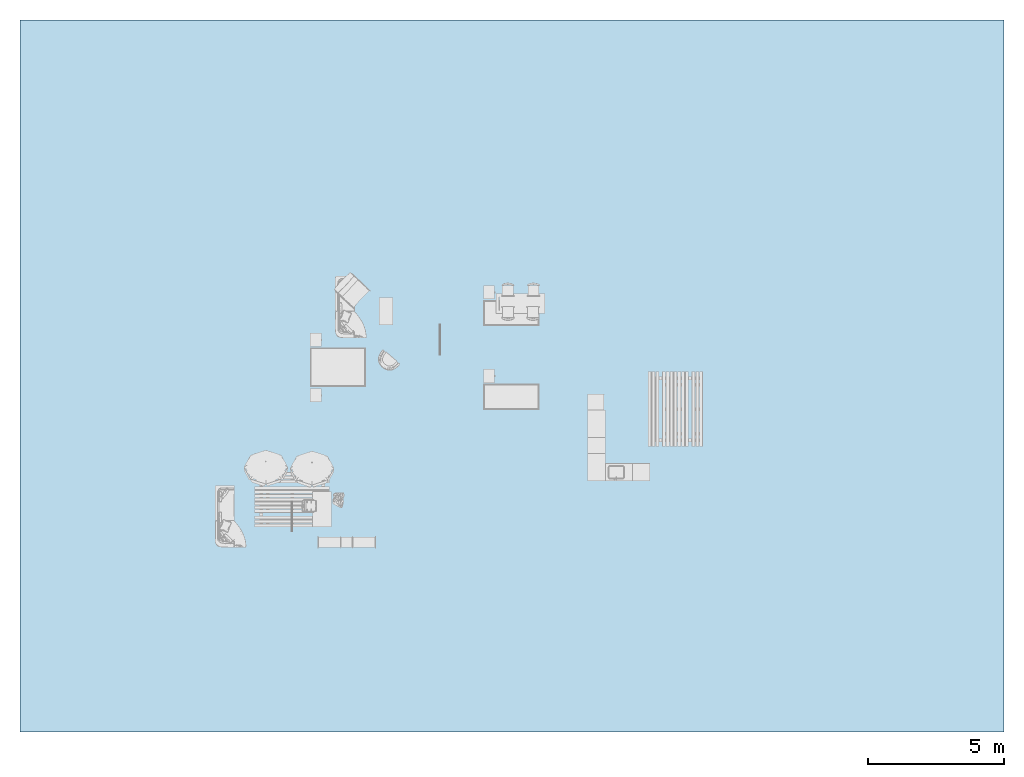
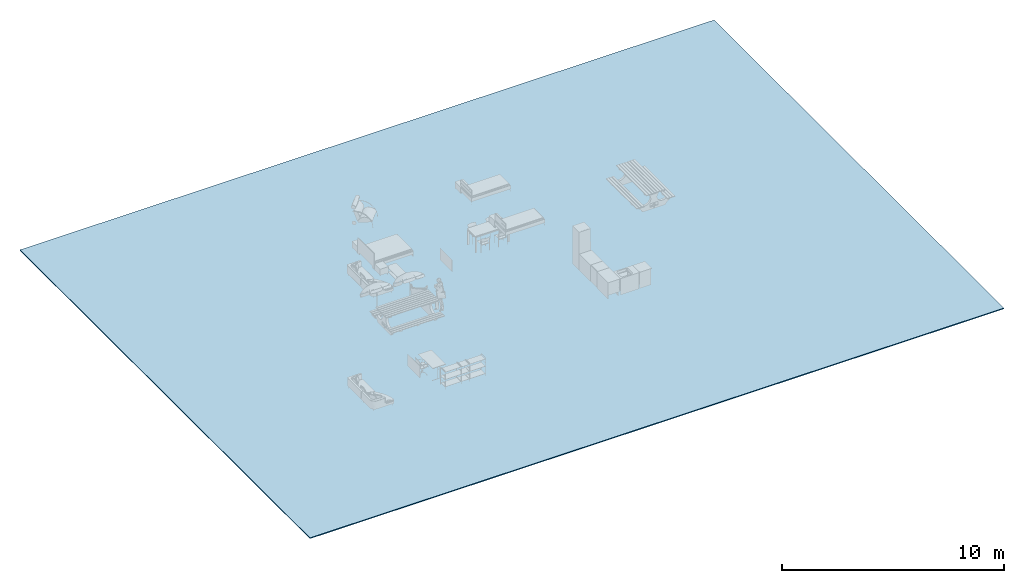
# One storey, part 1 of 4: 1 slab.
"""IFC4 building model written with IfcOpenShell, lengths in metres."""

import ifcopenshell
import ifcopenshell.guid

model = None  # the IFC model being written
_history = None  # IfcOwnerHistory: only IFC2X3 demands one
_inside = {}  # id of a spatial element -> (the spatial element, [elements in it])
_under = {}  # id of a project, library or spatial element -> (it, [spatial elements below it])
_declared = {}  # id of a project -> (the project, [libraries it declares])
_typed = {}  # id of a type object -> (the type object, [elements of that type])
_made_of = {}  # id of a material, layer set ... -> (it, [elements and type objects made of it])


def new_model(schema):
    """Start an empty IFC model of exactly this schema.

    Asked for "IFC4X3", IfcOpenShell would pick the latest addendum, in which some entities
    have other attributes; the version numbers below select the first issue.
    IFC2X3 requires an IfcOwnerHistory on every rooted entity: one is made here for all.
    """
    global model, _history
    if schema == "IFC4X3":
        model = ifcopenshell.file(schema_version=(4, 3, 0, 0))
    else:
        model = ifcopenshell.file(schema=schema)
    _inside.clear()
    _under.clear()
    _declared.clear()
    _typed.clear()
    _made_of.clear()
    _history = None
    if model.schema == "IFC2X3":
        org = make("IfcOrganization", Name="unknown")
        user = make(
            "IfcPersonAndOrganization",
            ThePerson=make("IfcPerson", FamilyName="unknown"),
            TheOrganization=org,
        )
        app = make(
            "IfcApplication",
            ApplicationDeveloper=org,
            Version="unknown",
            ApplicationFullName="unknown",
            ApplicationIdentifier="unknown",
        )
        _history = make(
            "IfcOwnerHistory",
            OwningUser=user,
            OwningApplication=app,
            ChangeAction="ADDED",
            CreationDate=0,
        )
    return model


def make(cls, **values):
    """One entity of the class cls with the attributes given. An attribute that is None is left unset."""
    return model.create_entity(
        cls, **{name: value for name, value in values.items() if value is not None}
    )


def entity(cls, *values):
    """Any entity or typed value of the class cls, its attributes in the order of the schema. None: left unset."""
    e = model.create_entity(cls)
    for i, value in enumerate(values):
        if value is not None:
            e[i] = value
    return e


def rooted(cls, **values):
    """An entity with a GlobalId (a new one), such as an element, a storey or a relation."""
    return make(cls, GlobalId=ifcopenshell.guid.new(), OwnerHistory=_history, **values)


def si_unit(unit_type, name, prefix=None):
    """IfcSIUnit, for example si_unit("LENGTHUNIT", "METRE", prefix="MILLI")."""
    return make("IfcSIUnit", UnitType=unit_type, Prefix=prefix, Name=name)


def converted_unit(unit_type, name, factor, base, dimensions=None, offset=None):
    """IfcConversionBasedUnit, such as the inch: factor (a typed value) times the base unit."""
    return make(
        "IfcConversionBasedUnit"
        if offset is None
        else "IfcConversionBasedUnitWithOffset",
        ConversionOffset=offset,
        Dimensions=None
        if dimensions is None
        else entity("IfcDimensionalExponents", *dimensions),
        UnitType=unit_type,
        Name=name,
        ConversionFactor=make(
            "IfcMeasureWithUnit", ValueComponent=factor, UnitComponent=base
        ),
    )


def assignment(units):
    """IfcUnitAssignment: the units of a project."""
    return None if units is None else make("IfcUnitAssignment", Units=units)


def point(xyz):
    """IfcCartesianPoint."""
    return None if xyz is None else make("IfcCartesianPoint", Coordinates=xyz)


def direction(xyz):
    """IfcDirection."""
    return None if xyz is None else make("IfcDirection", DirectionRatios=xyz)


def frame(location, z_axis=None, x_axis=None):
    """IfcAxis2Placement3D, a coordinate frame: its origin and axes. An axis left out is left unset."""
    return make(
        "IfcAxis2Placement3D",
        Location=point(location),
        Axis=direction(z_axis),
        RefDirection=direction(x_axis),
    )


def frame_2d(location, x_axis=None):
    """IfcAxis2Placement2D, a coordinate frame in the plane: its origin and x axis."""
    return make(
        "IfcAxis2Placement2D", Location=point(location), RefDirection=direction(x_axis)
    )


def origin():
    """The frame at (0, 0, 0) with its axes left unset."""
    return frame((0.0, 0.0, 0.0))


def place(relative_to, where):
    """IfcLocalPlacement: puts the frame where relative to a parent placement (None: the world)."""
    return make(
        "IfcLocalPlacement", PlacementRelTo=relative_to, RelativePlacement=where
    )


def context(
    kind, dimensions, precision=None, world=None, true_north=None, identifier=None
):
    """IfcGeometricRepresentationContext, for example the 3D "Model" context."""
    return make(
        "IfcGeometricRepresentationContext",
        ContextIdentifier=identifier,
        ContextType=kind,
        CoordinateSpaceDimension=dimensions,
        Precision=precision,
        WorldCoordinateSystem=world,
        TrueNorth=true_north,
    )


def subcontext(parent, identifier, kind, view, scale=None):
    """IfcGeometricRepresentationSubContext, for example "Body" below "Model"."""
    return make(
        "IfcGeometricRepresentationSubContext",
        ContextIdentifier=identifier,
        ContextType=kind,
        ParentContext=parent,
        TargetScale=scale,
        TargetView=view,
    )


def project(units=None, contexts=None):
    """IfcProject with its units and contexts."""
    return rooted(
        "IfcProject",
        Name="project",
        RepresentationContexts=contexts,
        UnitsInContext=assignment(units),
    )


def spatial(cls, under=None, at=None, **own):
    """A site, building, storey or space (cls), placed at a placement, below another one or the project."""
    s = rooted(cls, ObjectPlacement=at, **own)
    if under is not None:
        _under.setdefault(under.id(), (under, []))[1].append(s)
    return s


def profile(cls, at=None, kind="AREA", **sizes):
    """A parametric profile (cls). Its sizes go by their IFC names, for example OverallWidth=200.0."""
    return make(cls, ProfileType=kind, Position=at, **sizes)


def rectangle(**sizes):
    """IfcRectangleProfileDef."""
    return profile("IfcRectangleProfileDef", **sizes)


def extrude(swept, where, along, depth):
    """IfcExtrudedAreaSolid: the profile swept, set in the frame where, extruded along a direction by depth."""
    return make(
        "IfcExtrudedAreaSolid",
        SweptArea=swept,
        Position=where,
        ExtrudedDirection=direction(along),
        Depth=depth,
    )


def shape(context_of_items, identifier, shape_type, items):
    """IfcShapeRepresentation: the items that make up one representation, for example the "Body"."""
    return make(
        "IfcShapeRepresentation",
        ContextOfItems=context_of_items,
        RepresentationIdentifier=identifier,
        RepresentationType=shape_type,
        Items=items,
    )


def material(Name=None, Category=None):
    """IfcMaterial."""
    return make("IfcMaterial", Name=Name, Category=Category)


def made_of(thing, what):
    """Note that an element or type object is made of a material, layer set ...; save() writes the relation."""
    if what is not None:
        _made_of.setdefault(what.id(), (what, []))[1].append(thing)
    return thing


def element(
    cls,
    number,
    at=None,
    inside=None,
    cuts=None,
    type_object=None,
    material=None,
    context=None,
    identifier="Body",
    shape_type=None,
    held_by="IfcProductDefinitionShape",
    body=None,
    shapes=None,
    **own,
):
    """One element of the class cls, such as IfcWall. Its Tag is "e" and its number.

    at: its placement. inside: the storey or other place that contains it. cuts: it is an
    opening in that element (IfcRelVoidsElement). A single representation is given by context,
    identifier, shape_type and body (its items); several are given by shapes. held_by: the class
    of the entity that holds the representations. save() writes the other relations.
    """
    e = rooted(cls, Tag="e%d" % number, ObjectPlacement=at, **own)
    if body is not None:
        shapes = [shape(context, identifier, shape_type, body)]
    if shapes is not None:
        e.Representation = make(held_by, Representations=shapes)
    if inside is not None:
        _inside.setdefault(inside.id(), (inside, []))[1].append(e)
    if cuts is not None:
        rooted(
            "IfcRelVoidsElement", RelatingBuildingElement=cuts, RelatedOpeningElement=e
        )
    if type_object is not None:
        _typed.setdefault(type_object.id(), (type_object, []))[1].append(e)
    return made_of(e, material)


def aggregate(whole, parts):
    """IfcRelAggregates: a whole, such as a stair, and the parts it consists of."""
    return rooted("IfcRelAggregates", RelatingObject=whole, RelatedObjects=parts)


def save(model, path):
    """Write the relations noted so far, then the file.

    IfcRelAggregates (storeys below a building ...), IfcRelContainedInSpatialStructure (elements
    in a storey), IfcRelDefinesByType, IfcRelAssociatesMaterial and IfcRelDeclares: one each for
    every whole, place, type object, material and project.
    """
    for whole, parts in _under.values():
        aggregate(whole, parts)
    for where, things in _inside.values():
        rooted(
            "IfcRelContainedInSpatialStructure",
            RelatedElements=things,
            RelatingStructure=where,
        )
    for kind, things in _typed.values():
        rooted("IfcRelDefinesByType", RelatedObjects=things, RelatingType=kind)
    for what, things in _made_of.values():
        rooted("IfcRelAssociatesMaterial", RelatedObjects=things, RelatingMaterial=what)
    for by, libraries in _declared.values():
        rooted("IfcRelDeclares", RelatingContext=by, RelatedDefinitions=libraries)
    model.write(path)


model = new_model("IFC4")

# Units and contexts
model_context = context("Model", 3, precision=1e-05, world=origin())
body_context = subcontext(model_context, "Body", "Model", "MODEL_VIEW")
ifc_project = project(units=[si_unit("LENGTHUNIT", "METRE"), si_unit("AREAUNIT", "SQUARE_METRE"), si_unit("VOLUMEUNIT", "CUBIC_METRE"), si_unit("MASSUNIT", "GRAM", prefix="KILO"), converted_unit("PLANEANGLEUNIT", "DEGREE", entity("IfcPlaneAngleMeasure", 0.0174532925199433), si_unit("PLANEANGLEUNIT", "RADIAN"), dimensions=[0, 0, 0, 0, 0, 0, 0])], contexts=[model_context])

# Building, storey
building_placement = place(None, origin())
building = spatial("IfcBuilding", under=ifc_project, at=building_placement, Name="Projet de Construction", CompositionType="ELEMENT")
storey_placement = place(building_placement, frame((0.0, 0.0, -1.15)))
storey = spatial("IfcBuildingStorey", under=building, at=storey_placement, Name="Environnement", CompositionType="ELEMENT", Elevation=-1.15)

# Slab
ifc_material = material()
slab_placement = place(storey_placement, frame((-17.4559375, -10.0002083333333, 0.85)))
element("IfcSlab", 1, at=slab_placement, inside=storey, material=ifc_material, PredefinedType="FLOOR", context=body_context, shape_type="SweptSolid", body=[
    extrude(rectangle(XDim=26.14, YDim=36.12, at=frame_2d((18.06, -13.07), x_axis=(0.0, -1.0))), frame((0.0, 26.14, 0.0), z_axis=(0.0, 0.0, 1.0), x_axis=(1.0, 0.0, 0.0)), (0.0, 0.0, 1.0), 0.05),
])

save(model, "model.ifc")
